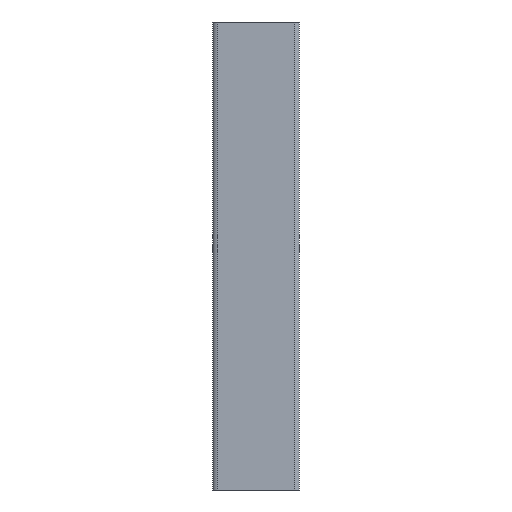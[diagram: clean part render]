
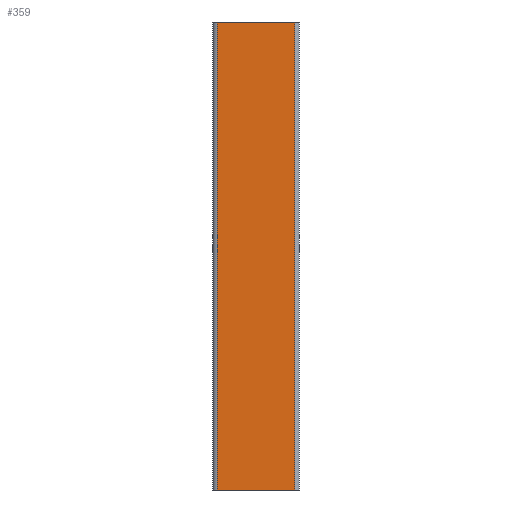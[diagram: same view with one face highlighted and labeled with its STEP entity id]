
A CAD part, left-side view. The second image highlights one B-rep face of the part: STEP entity #359.
In plain terms, the highlighted planar face has unit normal (-1, 0, 0).
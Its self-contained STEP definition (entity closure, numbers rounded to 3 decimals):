
#12 = VECTOR ( 'NONE', #134, 1000. ) ;
#16 = EDGE_CURVE ( 'NONE', #490, #108, #256, .T. ) ;
#43 = LINE ( 'NONE', #259, #12 ) ;
#87 = VECTOR ( 'NONE', #704, 1000. ) ;
#108 = VERTEX_POINT ( 'NONE', #440 ) ;
#129 = EDGE_CURVE ( 'NONE', #644, #684, #698, .T. ) ;
#134 = DIRECTION ( 'NONE',  ( 0., 0., -1. ) ) ;
#154 = DIRECTION ( 'NONE',  ( 0., -1., 0. ) ) ;
#193 = CARTESIAN_POINT ( 'NONE',  ( -5.4, 8.25, -50. ) ) ;
#245 = VECTOR ( 'NONE', #457, 1000. ) ;
#256 = LINE ( 'NONE', #497, #245 ) ;
#259 = CARTESIAN_POINT ( 'NONE',  ( -5.4, 8.25, 50. ) ) ;
#290 = EDGE_CURVE ( 'NONE', #490, #644, #43, .T. ) ;
#299 = EDGE_CURVE ( 'NONE', #108, #684, #360, .T. ) ;
#309 = EDGE_LOOP ( 'NONE', ( #405, #407, #493, #513 ) ) ;
#359 = ADVANCED_FACE ( 'NONE', ( #751 ), #380, .F. ) ;
#360 = LINE ( 'NONE', #706, #87 ) ;
#380 = PLANE ( 'NONE',  #760 ) ;
#389 = CARTESIAN_POINT ( 'NONE',  ( -5.4, 8.25, -50. ) ) ;
#405 = ORIENTED_EDGE ( 'NONE', *, *, #129, .T. ) ;
#407 = ORIENTED_EDGE ( 'NONE', *, *, #299, .F. ) ;
#435 = CARTESIAN_POINT ( 'NONE',  ( -5.4, 8.25, 50. ) ) ;
#439 = DIRECTION ( 'NONE',  ( 0., 1., 0. ) ) ;
#440 = CARTESIAN_POINT ( 'NONE',  ( -5.4, -8.25, 50. ) ) ;
#457 = DIRECTION ( 'NONE',  ( 0., -1., 0. ) ) ;
#490 = VERTEX_POINT ( 'NONE', #505 ) ;
#493 = ORIENTED_EDGE ( 'NONE', *, *, #16, .F. ) ;
#497 = CARTESIAN_POINT ( 'NONE',  ( -5.4, 8.25, 50. ) ) ;
#505 = CARTESIAN_POINT ( 'NONE',  ( -5.4, 8.25, 50. ) ) ;
#513 = ORIENTED_EDGE ( 'NONE', *, *, #290, .T. ) ;
#516 = CARTESIAN_POINT ( 'NONE',  ( -5.4, -8.25, -50. ) ) ;
#644 = VERTEX_POINT ( 'NONE', #389 ) ;
#661 = VECTOR ( 'NONE', #154, 1000. ) ;
#684 = VERTEX_POINT ( 'NONE', #516 ) ;
#698 = LINE ( 'NONE', #193, #661 ) ;
#704 = DIRECTION ( 'NONE',  ( 0., 0., -1. ) ) ;
#706 = CARTESIAN_POINT ( 'NONE',  ( -5.4, -8.25, 50. ) ) ;
#751 = FACE_OUTER_BOUND ( 'NONE', #309, .T. ) ;
#760 = AXIS2_PLACEMENT_3D ( 'NONE', #435, #763, #439 ) ;
#763 = DIRECTION ( 'NONE',  ( 1., 0., 0. ) ) ;
